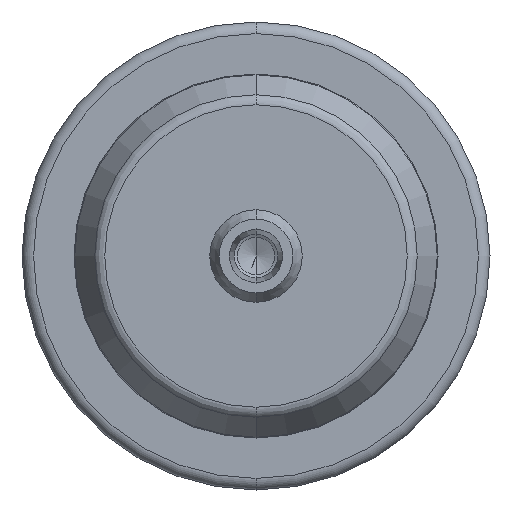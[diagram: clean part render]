
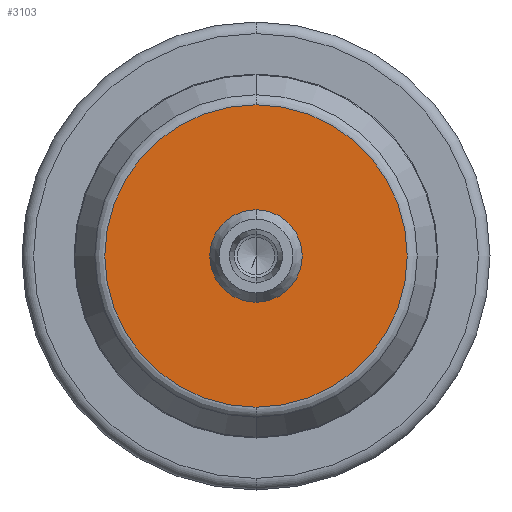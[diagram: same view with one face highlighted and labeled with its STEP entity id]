
A CAD part, front view. The second image highlights one B-rep face of the part: STEP entity #3103.
In plain terms, the highlighted planar face has unit normal (0, -1, 0).
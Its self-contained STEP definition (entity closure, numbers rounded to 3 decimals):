
#203 = DIRECTION ( 'NONE',  ( 0., -1., 0. ) ) ;
#240 = DIRECTION ( 'NONE',  ( 0., 0., -1. ) ) ;
#270 = AXIS2_PLACEMENT_3D ( 'NONE', #1173, #3176, #4830 ) ;
#292 = CARTESIAN_POINT ( 'NONE',  ( 0., -17., 26.17 ) ) ;
#356 = ORIENTED_EDGE ( 'NONE', *, *, #3245, .T. ) ;
#555 = PLANE ( 'NONE',  #4023 ) ;
#771 = CIRCLE ( 'NONE', #2910, 6. ) ;
#999 = VERTEX_POINT ( 'NONE', #3669 ) ;
#1167 = EDGE_CURVE ( 'NONE', #3594, #3462, #1960, .T. ) ;
#1173 = CARTESIAN_POINT ( 'NONE',  ( 0., -17., 0. ) ) ;
#1367 = DIRECTION ( 'NONE',  ( 0., 0., -1. ) ) ;
#1517 = ORIENTED_EDGE ( 'NONE', *, *, #2810, .T. ) ;
#1960 = CIRCLE ( 'NONE', #4959, 6. ) ;
#1985 = CIRCLE ( 'NONE', #270, 26.17 ) ;
#2008 = EDGE_LOOP ( 'NONE', ( #4577, #5213 ) ) ;
#2179 = DIRECTION ( 'NONE',  ( 0., 0., -1. ) ) ;
#2289 = DIRECTION ( 'NONE',  ( 0., -1., 0. ) ) ;
#2351 = EDGE_LOOP ( 'NONE', ( #1517, #356 ) ) ;
#2539 = DIRECTION ( 'NONE',  ( 0., 0., -1. ) ) ;
#2686 = CARTESIAN_POINT ( 'NONE',  ( 0., -17., 0. ) ) ;
#2810 = EDGE_CURVE ( 'NONE', #999, #2895, #4803, .T. ) ;
#2895 = VERTEX_POINT ( 'NONE', #292 ) ;
#2910 = AXIS2_PLACEMENT_3D ( 'NONE', #3810, #4190, #2539 ) ;
#3012 = CARTESIAN_POINT ( 'NONE',  ( 0., -17., 6. ) ) ;
#3103 = ADVANCED_FACE ( 'NONE', ( #3769, #5100 ), #555, .T. ) ;
#3176 = DIRECTION ( 'NONE',  ( 0., -1., 0. ) ) ;
#3245 = EDGE_CURVE ( 'NONE', #2895, #999, #1985, .T. ) ;
#3445 = CARTESIAN_POINT ( 'NONE',  ( 26.17, -17., 0. ) ) ;
#3462 = VERTEX_POINT ( 'NONE', #3012 ) ;
#3562 = CARTESIAN_POINT ( 'NONE',  ( 0., -17., -6. ) ) ;
#3594 = VERTEX_POINT ( 'NONE', #3562 ) ;
#3669 = CARTESIAN_POINT ( 'NONE',  ( 0., -17., -26.17 ) ) ;
#3769 = FACE_OUTER_BOUND ( 'NONE', #2351, .T. ) ;
#3810 = CARTESIAN_POINT ( 'NONE',  ( 0., -17., 0. ) ) ;
#3857 = CARTESIAN_POINT ( 'NONE',  ( 0., -17., 0. ) ) ;
#3907 = DIRECTION ( 'NONE',  ( 0., -1., 0. ) ) ;
#4023 = AXIS2_PLACEMENT_3D ( 'NONE', #3445, #203, #2179 ) ;
#4190 = DIRECTION ( 'NONE',  ( 0., -1., 0. ) ) ;
#4257 = EDGE_CURVE ( 'NONE', #3462, #3594, #771, .T. ) ;
#4577 = ORIENTED_EDGE ( 'NONE', *, *, #1167, .F. ) ;
#4630 = AXIS2_PLACEMENT_3D ( 'NONE', #2686, #2289, #1367 ) ;
#4803 = CIRCLE ( 'NONE', #4630, 26.17 ) ;
#4830 = DIRECTION ( 'NONE',  ( 0., 0., -1. ) ) ;
#4959 = AXIS2_PLACEMENT_3D ( 'NONE', #3857, #3907, #240 ) ;
#5100 = FACE_BOUND ( 'NONE', #2008, .T. ) ;
#5213 = ORIENTED_EDGE ( 'NONE', *, *, #4257, .F. ) ;
